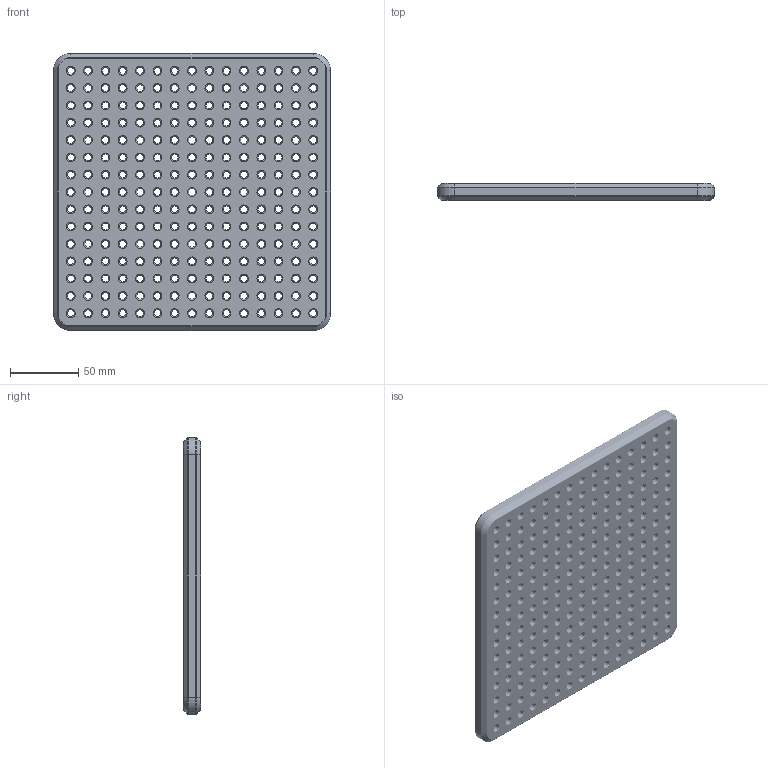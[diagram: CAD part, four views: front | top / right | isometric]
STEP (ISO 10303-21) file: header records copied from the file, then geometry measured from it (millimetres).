
FILE_DESCRIPTION(/* description */ (''),/* implementation_level */ '2;1');
FILE_NAME(/* name */ 'C:\Users\User\Desktop\Personal Projects\Fixturing\8x8 Fixture Plate.stp',/* time_stamp */ '2019-07-22T14:08:37-04:00',/* author */ ('User'),/* organization */ (''),/* preprocessor_version */ 'ST-DEVELOPER v16.1',/* originating_system */ 'Autodesk Inventor 2016',/* authorisation */ '');
FILE_SCHEMA (('AUTOMOTIVE_DESIGN { 1 0 10303 214 3 1 1 }'));
Length unit declared in the file: inch
Products named in the file (1): 8x8 Fixture Plate
Bounding box: 203.2 x 12.7 x 203.2 mm (x, y, z)
Volume: 439133.2 mm3; surface area: 128432.3 mm2
Topology: 1 solids, 1 shells, 1183 faces, 3045 edges, 1864 vertices
Faces by surface type: torus 691, cylinder 470, plane 14, cone 8
Full cylindrical faces by diameter (mm): 5.105 x225, 6.35 x225
Entity records: 27180 total; most frequent: DIRECTION 5252, CARTESIAN_POINT 4068, ORIENTED_EDGE 2940, EDGE_LOOP 2758, AXIS2_PLACEMENT_3D 2598, FACE_BOUND 1575, EDGE_CURVE 1470, CIRCLE 1414
